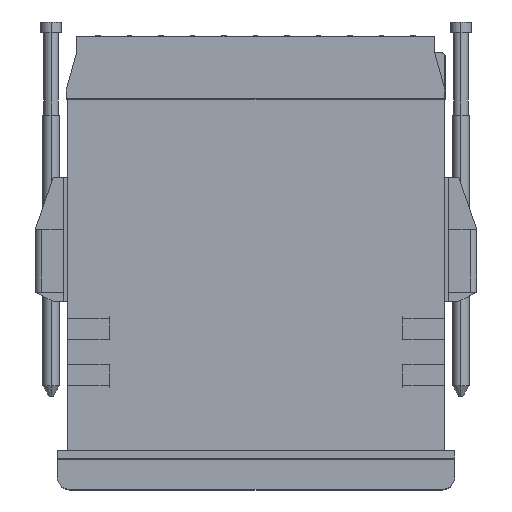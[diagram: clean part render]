
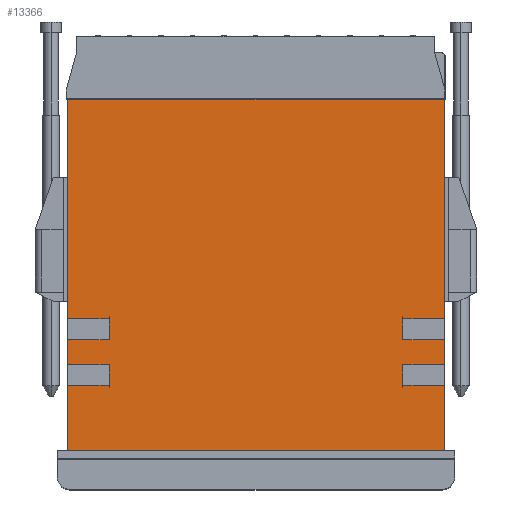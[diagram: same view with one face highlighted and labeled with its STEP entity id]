
A CAD part, top view. The second image highlights one B-rep face of the part: STEP entity #13366.
In plain terms, the highlighted planar face has unit normal (0, 0, 1) as drawn and (0, 0, -1) by its records, which use the part's own axes.
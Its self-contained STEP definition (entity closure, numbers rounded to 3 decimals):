
#335=DIRECTION('',(-1.,0.,0.));
#336=VECTOR('',#335,91.);
#337=CARTESIAN_POINT('',(45.5,0.,-22.));
#338=LINE('',#337,#336);
#3066=DIRECTION('',(0.,1.,0.));
#3067=VECTOR('',#3066,53.1);
#3068=CARTESIAN_POINT('',(-45.5,0.,-22.));
#3069=LINE('',#3068,#3067);
#3094=DIRECTION('',(0.,1.,0.));
#3095=VECTOR('',#3094,6.1);
#3096=CARTESIAN_POINT('',(-45.5,58.1,-22.));
#3097=LINE('',#3096,#3095);
#3122=DIRECTION('',(0.,1.,0.));
#3123=VECTOR('',#3122,15.8);
#3124=CARTESIAN_POINT('',(-45.5,69.2,-22.));
#3125=LINE('',#3124,#3123);
#4361=DIRECTION('',(0.,1.,0.));
#4362=VECTOR('',#4361,5.);
#4363=CARTESIAN_POINT('',(-35.5,53.1,-22.));
#4364=LINE('',#4363,#4362);
#4368=DIRECTION('',(1.,0.,0.));
#4369=VECTOR('',#4368,10.);
#4370=CARTESIAN_POINT('',(-45.5,53.1,-22.));
#4371=LINE('',#4370,#4369);
#4375=DIRECTION('',(0.,1.,0.));
#4376=VECTOR('',#4375,53.1);
#4377=CARTESIAN_POINT('',(45.5,0.,-22.));
#4378=LINE('',#4377,#4376);
#4382=DIRECTION('',(-1.,0.,0.));
#4383=VECTOR('',#4382,10.);
#4384=CARTESIAN_POINT('',(45.5,53.1,-22.));
#4385=LINE('',#4384,#4383);
#4389=DIRECTION('',(0.,1.,0.));
#4390=VECTOR('',#4389,5.);
#4391=CARTESIAN_POINT('',(35.5,53.1,-22.));
#4392=LINE('',#4391,#4390);
#4396=DIRECTION('',(-1.,0.,0.));
#4397=VECTOR('',#4396,10.);
#4398=CARTESIAN_POINT('',(45.5,58.1,-22.));
#4399=LINE('',#4398,#4397);
#4403=DIRECTION('',(0.,1.,0.));
#4404=VECTOR('',#4403,6.1);
#4405=CARTESIAN_POINT('',(45.5,58.1,-22.));
#4406=LINE('',#4405,#4404);
#4410=DIRECTION('',(-1.,0.,0.));
#4411=VECTOR('',#4410,10.);
#4412=CARTESIAN_POINT('',(45.5,64.2,-22.));
#4413=LINE('',#4412,#4411);
#4417=DIRECTION('',(0.,1.,0.));
#4418=VECTOR('',#4417,5.);
#4419=CARTESIAN_POINT('',(35.5,64.2,-22.));
#4420=LINE('',#4419,#4418);
#4424=DIRECTION('',(-1.,0.,0.));
#4425=VECTOR('',#4424,10.);
#4426=CARTESIAN_POINT('',(45.5,69.2,-22.));
#4427=LINE('',#4426,#4425);
#4431=DIRECTION('',(0.,1.,0.));
#4432=VECTOR('',#4431,15.8);
#4433=CARTESIAN_POINT('',(45.5,69.2,-22.));
#4434=LINE('',#4433,#4432);
#4438=DIRECTION('',(-1.,0.,0.));
#4439=VECTOR('',#4438,91.);
#4440=CARTESIAN_POINT('',(45.5,85.,-22.));
#4441=LINE('',#4440,#4439);
#4445=DIRECTION('',(1.,0.,0.));
#4446=VECTOR('',#4445,10.);
#4447=CARTESIAN_POINT('',(-45.5,69.2,-22.));
#4448=LINE('',#4447,#4446);
#4452=DIRECTION('',(0.,1.,0.));
#4453=VECTOR('',#4452,5.);
#4454=CARTESIAN_POINT('',(-35.5,64.2,-22.));
#4455=LINE('',#4454,#4453);
#4459=DIRECTION('',(1.,0.,0.));
#4460=VECTOR('',#4459,10.);
#4461=CARTESIAN_POINT('',(-45.5,64.2,-22.));
#4462=LINE('',#4461,#4460);
#4466=DIRECTION('',(1.,0.,0.));
#4467=VECTOR('',#4466,10.);
#4468=CARTESIAN_POINT('',(-45.5,58.1,-22.));
#4469=LINE('',#4468,#4467);
#8774=CARTESIAN_POINT('',(45.5,0.,-22.));
#8775=CARTESIAN_POINT('',(-45.5,0.,-22.));
#8776=VERTEX_POINT('',#8774);
#8777=VERTEX_POINT('',#8775);
#8802=CARTESIAN_POINT('',(45.5,85.,-22.));
#8803=CARTESIAN_POINT('',(-45.5,85.,-22.));
#8804=VERTEX_POINT('',#8802);
#8805=VERTEX_POINT('',#8803);
#8830=CARTESIAN_POINT('',(45.5,69.2,-22.));
#8832=VERTEX_POINT('',#8830);
#8836=CARTESIAN_POINT('',(45.5,64.2,-22.));
#8837=VERTEX_POINT('',#8836);
#8838=CARTESIAN_POINT('',(45.5,58.1,-22.));
#8840=VERTEX_POINT('',#8838);
#8844=CARTESIAN_POINT('',(45.5,53.1,-22.));
#8845=VERTEX_POINT('',#8844);
#8846=CARTESIAN_POINT('',(35.5,53.1,-22.));
#8847=CARTESIAN_POINT('',(35.5,58.1,-22.));
#8848=VERTEX_POINT('',#8846);
#8849=VERTEX_POINT('',#8847);
#8850=CARTESIAN_POINT('',(35.5,64.2,-22.));
#8851=CARTESIAN_POINT('',(35.5,69.2,-22.));
#8852=VERTEX_POINT('',#8850);
#8853=VERTEX_POINT('',#8851);
#8862=CARTESIAN_POINT('',(-35.5,69.2,-22.));
#8863=VERTEX_POINT('',#8862);
#8864=CARTESIAN_POINT('',(-35.5,64.2,-22.));
#8865=VERTEX_POINT('',#8864);
#8866=CARTESIAN_POINT('',(-35.5,58.1,-22.));
#8867=VERTEX_POINT('',#8866);
#8868=CARTESIAN_POINT('',(-35.5,53.1,-22.));
#8869=VERTEX_POINT('',#8868);
#8878=CARTESIAN_POINT('',(-45.5,69.2,-22.));
#8879=VERTEX_POINT('',#8878);
#8880=CARTESIAN_POINT('',(-45.5,64.2,-22.));
#8881=VERTEX_POINT('',#8880);
#8882=CARTESIAN_POINT('',(-45.5,58.1,-22.));
#8883=VERTEX_POINT('',#8882);
#8884=CARTESIAN_POINT('',(-45.5,53.1,-22.));
#8885=VERTEX_POINT('',#8884);
#13327=CARTESIAN_POINT('',(45.5,0.,-22.));
#13328=DIRECTION('',(0.,0.,-1.));
#13329=DIRECTION('',(-1.,0.,0.));
#13330=AXIS2_PLACEMENT_3D('',#13327,#13328,#13329);
#13331=PLANE('',#13330);
#13333=ORIENTED_EDGE('',*,*,#13332,.F.);
#13335=ORIENTED_EDGE('',*,*,#13334,.F.);
#13336=ORIENTED_EDGE('',*,*,#12395,.F.);
#13337=ORIENTED_EDGE('',*,*,#10349,.F.);
#13338=ORIENTED_EDGE('',*,*,#12984,.T.);
#13340=ORIENTED_EDGE('',*,*,#13339,.T.);
#13342=ORIENTED_EDGE('',*,*,#13341,.T.);
#13344=ORIENTED_EDGE('',*,*,#13343,.F.);
#13345=ORIENTED_EDGE('',*,*,#12976,.T.);
#13347=ORIENTED_EDGE('',*,*,#13346,.T.);
#13349=ORIENTED_EDGE('',*,*,#13348,.T.);
#13351=ORIENTED_EDGE('',*,*,#13350,.F.);
#13352=ORIENTED_EDGE('',*,*,#12968,.T.);
#13353=ORIENTED_EDGE('',*,*,#12719,.T.);
#13354=ORIENTED_EDGE('',*,*,#12411,.F.);
#13356=ORIENTED_EDGE('',*,*,#13355,.T.);
#13358=ORIENTED_EDGE('',*,*,#13357,.F.);
#13360=ORIENTED_EDGE('',*,*,#13359,.F.);
#13361=ORIENTED_EDGE('',*,*,#12403,.F.);
#13363=ORIENTED_EDGE('',*,*,#13362,.T.);
#13364=EDGE_LOOP('',(#13333,#13335,#13336,#13337,#13338,#13340,#13342,#13344,
#13345,#13347,#13349,#13351,#13352,#13353,#13354,#13356,#13358,#13360,#13361,
#13363));
#13365=FACE_OUTER_BOUND('',#13364,.F.);
#10349=EDGE_CURVE('',#8776,#8777,#338,.T.);
#12395=EDGE_CURVE('',#8777,#8885,#3069,.T.);
#12403=EDGE_CURVE('',#8883,#8881,#3097,.T.);
#12411=EDGE_CURVE('',#8879,#8805,#3125,.T.);
#12719=EDGE_CURVE('',#8804,#8805,#4441,.T.);
#12968=EDGE_CURVE('',#8832,#8804,#4434,.T.);
#12976=EDGE_CURVE('',#8840,#8837,#4406,.T.);
#12984=EDGE_CURVE('',#8776,#8845,#4378,.T.);
#13332=EDGE_CURVE('',#8869,#8867,#4364,.T.);
#13334=EDGE_CURVE('',#8885,#8869,#4371,.T.);
#13339=EDGE_CURVE('',#8845,#8848,#4385,.T.);
#13341=EDGE_CURVE('',#8848,#8849,#4392,.T.);
#13343=EDGE_CURVE('',#8840,#8849,#4399,.T.);
#13346=EDGE_CURVE('',#8837,#8852,#4413,.T.);
#13348=EDGE_CURVE('',#8852,#8853,#4420,.T.);
#13350=EDGE_CURVE('',#8832,#8853,#4427,.T.);
#13355=EDGE_CURVE('',#8879,#8863,#4448,.T.);
#13357=EDGE_CURVE('',#8865,#8863,#4455,.T.);
#13359=EDGE_CURVE('',#8881,#8865,#4462,.T.);
#13362=EDGE_CURVE('',#8883,#8867,#4469,.T.);
#13366=ADVANCED_FACE('',(#13365),#13331,.T.);
